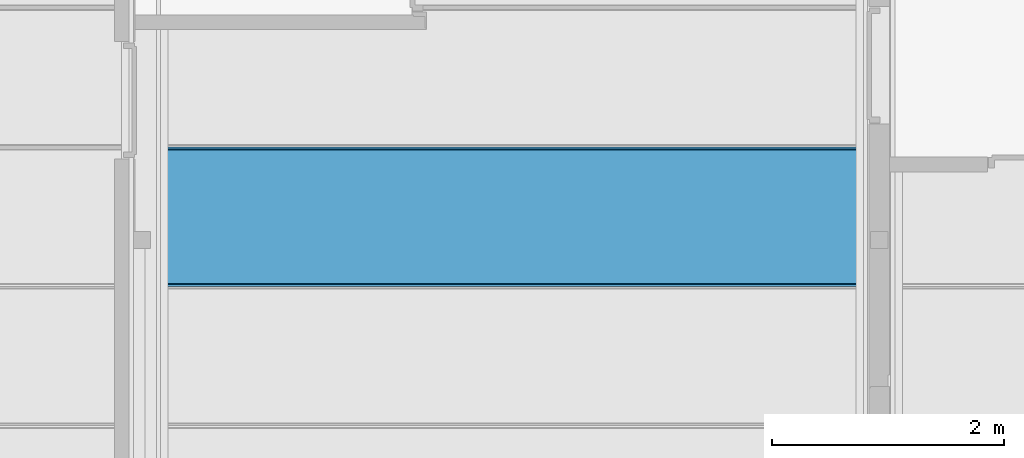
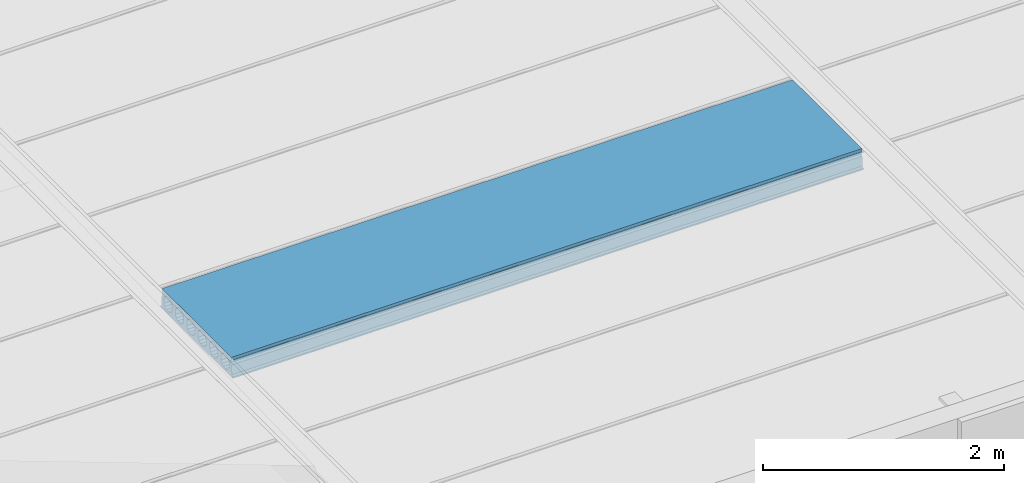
# One storey, part 10 of 45: 1 beam.
"""IFC2X3 building model written with IfcOpenShell, lengths in millimetres."""

from ifc_helpers import new_model, entity, si_unit, converted_unit, frame, origin, place, context, subcontext, project, spatial, faceted_brep, material, element, save


model = new_model("IFC2X3")

# Units and contexts
model_context = context("Model", 3, precision=1e-05, world=origin())
plan_context = context("Plan", 3, precision=1e-05, world=origin())
body_context = subcontext(model_context, "Body", "Model", "MODEL_VIEW")
ifc_project = project(units=[si_unit("LENGTHUNIT", "METRE", prefix="MILLI"), converted_unit("PLANEANGLEUNIT", "DEGREE", entity("IfcPlaneAngleMeasure", 0.0174532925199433), si_unit("PLANEANGLEUNIT", "RADIAN"), dimensions=[0, 0, 0, 0, 0, 0, 0]), si_unit("AREAUNIT", "SQUARE_METRE"), si_unit("VOLUMEUNIT", "CUBIC_METRE")], contexts=[model_context, plan_context])

# Building, storey
building_placement = place(None, origin())
building = spatial("IfcBuilding", under=ifc_project, at=building_placement, Name="HEKF Administrasjonbygg", CompositionType="ELEMENT")
storey_placement = place(building_placement, frame((0.0, 0.0, 6500.0), z_axis=(0.0, 0.0, 1.0), x_axis=(1.0, 0.0, 0.0)))
storey = spatial("IfcBuildingStorey", under=building, at=storey_placement, Name="Plan 1", CompositionType="ELEMENT", Elevation=6500.0)

# Beam
ifc_material = material()
beam_placement = place(storey_placement, frame((0.0, 0.0, -6500.0), z_axis=(0.0, 0.0, 1.0), x_axis=(1.0, 0.0, 0.0)))
element("IfcBeam", 1, at=beam_placement, inside=storey, material=ifc_material, context=body_context, shape_type="Brep", body=[
    faceted_brep([(10135.0, -7199.999999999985, 9684.999999), (10135.0, -7199.999999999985, 9670.0), (16189.99999999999, -7200.0, 9670.000000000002), (16189.99999999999, -7200.0, 9684.999999), (10135.0, -8399.999999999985, 9684.999999), (10135.0, -8399.999999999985, 9670.0), (10135.0, -7199.999999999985, 9670.0), (10135.0, -7199.999999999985, 9684.999999), (10135.0, -7214.99987952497, 9699.999998), (10135.0, -7220.000002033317, 9794.999985), (10135.0, -7235.000003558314, 9809.999985), (10135.0, -7235.000003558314, 9829.999985), (10135.0, -7222.727297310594, 9842.272583), (10135.0, -7224.047732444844, 9870.0), (10135.0, -8375.95237255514, 9870.0), (10135.0, -8377.272729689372, 9842.272735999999), (10135.0, -8365.00000044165, 9829.999985), (10135.0, -8365.00000044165, 9809.999985), (10135.0, -8380.000001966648, 9794.999985), (10135.0, -8384.999999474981, 9699.999998), (10135.0, -8274.999987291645, 9694.999989), (10135.0, -8303.701261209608, 9700.709023), (10135.0, -8328.033020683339, 9716.966995), (10135.0, -8344.290964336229, 9741.298752), (10135.0, -8344.290960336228, 9798.701262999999), (10135.0, -8328.03299768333, 9823.03299), (10135.0, -8303.70124620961, 9839.290955), (10135.0, -8274.999987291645, 9845.0), (10135.0, -8246.298721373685, 9839.290955), (10135.0, -8221.96697689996, 9823.033005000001), (10135.0, -8205.709010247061, 9798.701233), (10135.0, -8205.708980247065, 9741.298767), (10135.0, -8221.966961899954, 9716.966995), (10135.0, -8246.29870537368, 9700.709023), (10135.0, -8084.999967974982, 9694.999989), (10135.0, -8113.701241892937, 9700.709023), (10135.0, -8138.033001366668, 9716.966995), (10135.0, -8154.290945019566, 9741.298752), (10135.0, -8154.290941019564, 9798.701262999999), (10135.0, -8138.032978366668, 9823.03299), (10135.0, -8113.701226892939, 9839.290955), (10135.0, -8084.999967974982, 9845.0), (10135.0, -8056.298702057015, 9839.290955), (10135.0, -8031.966957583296, 9823.033005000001), (10135.0, -8015.708990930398, 9798.701233), (10135.0, -8015.708960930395, 9741.298767), (10135.0, -8031.966942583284, 9716.966995), (10135.0, -8056.298686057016, 9700.709023), (10135.0, -7894.999948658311, 9694.999989), (10135.0, -7923.701222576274, 9700.709023), (10135.0, -7948.032982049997, 9716.966995), (10135.0, -7964.290925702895, 9741.298752), (10135.0, -7964.290921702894, 9798.701262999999), (10135.0, -7948.032959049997, 9823.03299), (10135.0, -7923.701207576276, 9839.290955), (10135.0, -7894.999948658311, 9845.0), (10135.0, -7866.298682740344, 9839.290955), (10135.0, -7841.966938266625, 9823.033005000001), (10135.0, -7825.708971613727, 9798.701233), (10135.0, -7825.708941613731, 9741.298767), (10135.0, -7841.96692326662, 9716.966995), (10135.0, -7866.298666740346, 9700.709023), (10135.0, -7704.99992934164, 9694.999989), (10135.0, -7733.701203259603, 9700.709023), (10135.0, -7758.032962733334, 9716.966995), (10135.0, -7774.290906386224, 9741.298752), (10135.0, -7774.290902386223, 9798.701262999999), (10135.0, -7758.032939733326, 9823.03299), (10135.0, -7733.701188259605, 9839.290955), (10135.0, -7704.99992934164, 9845.0), (10135.0, -7676.29866342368, 9839.290955), (10135.0, -7651.966918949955, 9823.033005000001), (10135.0, -7635.708952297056, 9798.701233), (10135.0, -7635.708922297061, 9741.298767), (10135.0, -7651.96690394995, 9716.966995), (10135.0, -7676.298647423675, 9700.709023), (10135.0, -7514.999910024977, 9694.999989), (10135.0, -7543.701183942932, 9700.709023), (10135.0, -7568.032943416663, 9716.966995), (10135.0, -7584.290887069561, 9741.298752), (10135.0, -7584.29088306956, 9798.701262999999), (10135.0, -7568.032920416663, 9823.03299), (10135.0, -7543.701168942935, 9839.290955), (10135.0, -7514.999910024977, 9845.0), (10135.0, -7486.29864410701, 9839.290955), (10135.0, -7461.966899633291, 9823.033005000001), (10135.0, -7445.708932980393, 9798.701233), (10135.0, -7445.70890298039, 9741.298767), (10135.0, -7461.966884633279, 9716.966995), (10135.0, -7486.298628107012, 9700.709023), (10135.0, -7324.999890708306, 9694.999989), (10135.0, -7353.701164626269, 9700.709023), (10135.0, -7378.032924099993, 9716.966995), (10135.0, -7394.29086775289, 9741.298752), (10135.0, -7394.290863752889, 9798.701262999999), (10135.0, -7378.032901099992, 9823.03299), (10135.0, -7353.701149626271, 9839.290955), (10135.0, -7324.999890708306, 9845.0), (10135.0, -7296.298624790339, 9839.290955), (10135.0, -7271.966880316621, 9823.033005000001), (10135.0, -7255.708913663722, 9798.701233), (10135.0, -7255.708883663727, 9741.298767), (10135.0, -7271.966865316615, 9716.966995), (10135.0, -7296.298608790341, 9700.709023), (16190.0, -8400.0, 9684.999999), (16190.0, -8400.0, 9670.0), (10135.0, -8399.999999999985, 9670.0), (10135.0, -8399.999999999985, 9684.999999), (16189.99999999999, -7200.0, 9684.999999), (16189.99999999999, -7200.0, 9670.000000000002), (16190.0, -8400.0, 9670.0), (16190.0, -8400.0, 9684.999999), (16190.0, -8384.999999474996, 9699.999998), (16190.0, -8380.000001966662, 9794.999985), (16190.0, -8365.000000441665, 9809.999985), (16190.0, -8365.000000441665, 9829.999985), (16190.0, -8377.272729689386, 9842.272735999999), (16190.0, -8375.952372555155, 9870.0), (16190.0, -7224.047732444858, 9870.0), (16190.0, -7222.727297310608, 9842.272583), (16190.0, -7235.000003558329, 9829.999985), (16190.0, -7235.000003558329, 9809.999985), (16190.0, -7220.000002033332, 9794.999985), (16190.0, -7214.999879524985, 9699.999998), (16190.0, -7324.999890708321, 9694.999989), (16190.0, -7296.298608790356, 9700.709023), (16190.0, -7271.96686531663, 9716.966995), (16190.0, -7255.708883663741, 9741.298767), (16190.0, -7255.708913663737, 9798.701233), (16190.0, -7271.966880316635, 9823.033005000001), (16190.0, -7296.298624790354, 9839.290955), (16190.0, -7324.999890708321, 9845.0), (16190.0, -7353.701149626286, 9839.290955), (16190.0, -7378.032901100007, 9823.03299), (16190.0, -7394.290863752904, 9798.701262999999), (16190.0, -7394.290867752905, 9741.298752), (16190.0, -7378.032924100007, 9716.966995), (16190.0, -7353.701164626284, 9700.709023), (16190.0, -7514.999910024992, 9694.999989), (16190.0, -7486.298628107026, 9700.709023), (16190.0, -7461.966884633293, 9716.966995), (16190.0, -7445.708902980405, 9741.298767), (16190.0, -7445.708932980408, 9798.701233), (16190.0, -7461.966899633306, 9823.033005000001), (16190.0, -7486.298644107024, 9839.290955), (16190.0, -7514.999910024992, 9845.0), (16190.0, -7543.701168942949, 9839.290955), (16190.0, -7568.032920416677, 9823.03299), (16190.0, -7584.290883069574, 9798.701262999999), (16190.0, -7584.290887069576, 9741.298752), (16190.0, -7568.032943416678, 9716.966995), (16190.0, -7543.701183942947, 9700.709023), (16190.0, -7704.999929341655, 9694.999989), (16190.0, -7676.29864742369, 9700.709023), (16190.0, -7651.966903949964, 9716.966995), (16190.0, -7635.708922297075, 9741.298767), (16190.0, -7635.708952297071, 9798.701233), (16190.0, -7651.966918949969, 9823.033005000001), (16190.0, -7676.298663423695, 9839.290955), (16190.0, -7704.999929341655, 9845.0), (16190.0, -7733.70118825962, 9839.290955), (16190.0, -7758.032939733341, 9823.03299), (16190.0, -7774.290902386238, 9798.701262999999), (16190.0, -7774.290906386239, 9741.298752), (16190.0, -7758.032962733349, 9716.966995), (16190.0, -7733.701203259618, 9700.709023), (16190.0, -7894.999948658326, 9694.999989), (16190.0, -7866.29866674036, 9700.709023), (16190.0, -7841.966923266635, 9716.966995), (16190.0, -7825.708941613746, 9741.298767), (16190.0, -7825.708971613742, 9798.701233), (16190.0, -7841.96693826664, 9823.033005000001), (16190.0, -7866.298682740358, 9839.290955), (16190.0, -7894.999948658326, 9845.0), (16190.0, -7923.701207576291, 9839.290955), (16190.0, -7948.032959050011, 9823.03299), (16190.0, -7964.290921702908, 9798.701262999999), (16190.0, -7964.29092570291, 9741.298752), (16190.0, -7948.032982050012, 9716.966995), (16190.0, -7923.701222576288, 9700.709023), (16190.0, -8084.999967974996, 9694.999989), (16190.0, -8056.298686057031, 9700.709023), (16190.0, -8031.966942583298, 9716.966995), (16190.0, -8015.708960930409, 9741.298767), (16190.0, -8015.708990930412, 9798.701233), (16190.0, -8031.96695758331, 9823.033005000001), (16190.0, -8056.298702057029, 9839.290955), (16190.0, -8084.999967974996, 9845.0), (16190.0, -8113.701226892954, 9839.290955), (16190.0, -8138.032978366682, 9823.03299), (16190.0, -8154.290941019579, 9798.701262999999), (16190.0, -8154.29094501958, 9741.298752), (16190.0, -8138.033001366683, 9716.966995), (16190.0, -8113.701241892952, 9700.709023), (16190.0, -8274.99998729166, 9694.999989), (16190.0, -8246.298705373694, 9700.709023), (16190.0, -8221.966961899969, 9716.966995), (16190.0, -8205.70898024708, 9741.298767), (16190.0, -8205.709010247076, 9798.701233), (16190.0, -8221.966976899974, 9823.033005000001), (16190.0, -8246.2987213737, 9839.290955), (16190.0, -8274.99998729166, 9845.0), (16190.0, -8303.701246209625, 9839.290955), (16190.0, -8328.032997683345, 9823.03299), (16190.0, -8344.290960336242, 9798.701262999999), (16190.0, -8344.290964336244, 9741.298752), (16190.0, -8328.033020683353, 9716.966995), (16190.0, -8303.701261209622, 9700.709023), (10135.0, -8399.999999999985, 9684.999999), (10135.0, -8384.999999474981, 9699.999998), (16190.0, -8384.999999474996, 9699.999998), (16190.0, -8400.0, 9684.999999), (10135.0, -8384.999999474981, 9699.999998), (10135.0, -8380.000001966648, 9794.999985), (16190.0, -8380.000001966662, 9794.999985), (16190.0, -8384.999999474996, 9699.999998), (10135.0, -8380.000001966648, 9794.999985), (10135.0, -8365.00000044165, 9809.999985), (16190.0, -8365.000000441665, 9809.999985), (16190.0, -8380.000001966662, 9794.999985), (10135.0, -8365.00000044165, 9809.999985), (10135.0, -8365.00000044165, 9829.999985), (16190.0, -8365.000000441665, 9829.999985), (16190.0, -8365.000000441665, 9809.999985), (10135.0, -8365.00000044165, 9829.999985), (10135.0, -8377.272729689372, 9842.272735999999), (16190.0, -8377.272729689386, 9842.272735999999), (16190.0, -8365.000000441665, 9829.999985), (10135.0, -8377.272729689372, 9842.272735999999), (10135.0, -8375.95237255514, 9870.0), (16190.0, -8375.952372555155, 9870.0), (16190.0, -8377.272729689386, 9842.272735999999), (10135.0, -8375.95237255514, 9870.0), (10135.0, -7224.047732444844, 9870.0), (16190.0, -7224.047732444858, 9870.0), (16190.0, -8375.952372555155, 9870.0), (10135.0, -7224.047732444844, 9870.0), (10135.0, -7222.727297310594, 9842.272583), (16190.0, -7222.727297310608, 9842.272583), (16190.0, -7224.047732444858, 9870.0), (10135.0, -7222.727297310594, 9842.272583), (10135.0, -7235.000003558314, 9829.999985), (16190.0, -7235.000003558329, 9829.999985), (16190.0, -7222.727297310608, 9842.272583), (10135.0, -7235.000003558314, 9829.999985), (10135.0, -7235.000003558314, 9809.999985), (16190.0, -7235.000003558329, 9809.999985), (16190.0, -7235.000003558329, 9829.999985), (10135.0, -7235.000003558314, 9809.999985), (10135.0, -7220.000002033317, 9794.999985), (16190.0, -7220.000002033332, 9794.999985), (16190.0, -7235.000003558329, 9809.999985), (10135.0, -7220.000002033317, 9794.999985), (10135.0, -7214.99987952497, 9699.999998), (16190.0, -7214.999879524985, 9699.999998), (16190.0, -7220.000002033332, 9794.999985), (10135.0, -7214.99987952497, 9699.999998), (10135.0, -7199.999999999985, 9684.999999), (16189.99999999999, -7200.0, 9684.999999), (16190.0, -7214.999879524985, 9699.999998), (10135.0, -7199.999999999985, 9670.0), (10135.0, -8399.999999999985, 9670.0), (16190.0, -8400.0, 9670.0), (16189.99999999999, -7200.0, 9670.000000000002), (10135.0, -7324.999890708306, 9694.999989), (10135.0, -7296.298608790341, 9700.709023), (16190.0, -7296.298608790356, 9700.709023), (16190.0, -7324.999890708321, 9694.999989), (10135.0, -7296.298608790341, 9700.709023), (10135.0, -7271.966865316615, 9716.966995), (16190.0, -7271.96686531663, 9716.966995), (16190.0, -7296.298608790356, 9700.709023), (10135.0, -7271.966865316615, 9716.966995), (10135.0, -7255.708883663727, 9741.298767), (16190.0, -7255.708883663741, 9741.298767), (16190.0, -7271.96686531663, 9716.966995), (10135.0, -7255.708883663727, 9741.298767), (10135.0, -7255.708913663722, 9798.701233), (16190.0, -7255.708913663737, 9798.701233), (16190.0, -7255.708883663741, 9741.298767), (10135.0, -7255.708913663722, 9798.701233), (10135.0, -7271.966880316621, 9823.033005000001), (16190.0, -7271.966880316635, 9823.033005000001), (16190.0, -7255.708913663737, 9798.701233), (10135.0, -7271.966880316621, 9823.033005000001), (10135.0, -7296.298624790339, 9839.290955), (16190.0, -7296.298624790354, 9839.290955), (16190.0, -7271.966880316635, 9823.033005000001), (10135.0, -7296.298624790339, 9839.290955), (10135.0, -7324.999890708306, 9845.0), (16190.0, -7324.999890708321, 9845.0), (16190.0, -7296.298624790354, 9839.290955), (10135.0, -7324.999890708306, 9845.0), (10135.0, -7353.701149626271, 9839.290955), (16190.0, -7353.701149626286, 9839.290955), (16190.0, -7324.999890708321, 9845.0), (10135.0, -7353.701149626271, 9839.290955), (10135.0, -7378.032901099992, 9823.03299), (16190.0, -7378.032901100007, 9823.03299), (16190.0, -7353.701149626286, 9839.290955), (10135.0, -7378.032901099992, 9823.03299), (10135.0, -7394.290863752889, 9798.701262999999), (16190.0, -7394.290863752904, 9798.701262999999), (16190.0, -7378.032901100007, 9823.03299), (10135.0, -7394.290863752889, 9798.701262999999), (10135.0, -7394.29086775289, 9741.298752), (16190.0, -7394.290867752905, 9741.298752), (16190.0, -7394.290863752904, 9798.701262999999), (10135.0, -7394.29086775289, 9741.298752), (10135.0, -7378.032924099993, 9716.966995), (16190.0, -7378.032924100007, 9716.966995), (16190.0, -7394.290867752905, 9741.298752), (10135.0, -7378.032924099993, 9716.966995), (10135.0, -7353.701164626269, 9700.709023), (16190.0, -7353.701164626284, 9700.709023), (16190.0, -7378.032924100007, 9716.966995), (10135.0, -7353.701164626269, 9700.709023), (10135.0, -7324.999890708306, 9694.999989), (16190.0, -7324.999890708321, 9694.999989), (16190.0, -7353.701164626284, 9700.709023), (10135.0, -7514.999910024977, 9694.999989), (10135.0, -7486.298628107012, 9700.709023), (16190.0, -7486.298628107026, 9700.709023), (16190.0, -7514.999910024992, 9694.999989), (10135.0, -7486.298628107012, 9700.709023), (10135.0, -7461.966884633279, 9716.966995), (16190.0, -7461.966884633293, 9716.966995), (16190.0, -7486.298628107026, 9700.709023), (10135.0, -7461.966884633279, 9716.966995), (10135.0, -7445.70890298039, 9741.298767), (16190.0, -7445.708902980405, 9741.298767), (16190.0, -7461.966884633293, 9716.966995), (10135.0, -7445.70890298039, 9741.298767), (10135.0, -7445.708932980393, 9798.701233), (16190.0, -7445.708932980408, 9798.701233), (16190.0, -7445.708902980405, 9741.298767), (10135.0, -7445.708932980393, 9798.701233), (10135.0, -7461.966899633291, 9823.033005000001), (16190.0, -7461.966899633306, 9823.033005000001), (16190.0, -7445.708932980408, 9798.701233), (10135.0, -7461.966899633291, 9823.033005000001), (10135.0, -7486.29864410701, 9839.290955), (16190.0, -7486.298644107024, 9839.290955), (16190.0, -7461.966899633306, 9823.033005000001), (10135.0, -7486.29864410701, 9839.290955), (10135.0, -7514.999910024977, 9845.0), (16190.0, -7514.999910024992, 9845.0), (16190.0, -7486.298644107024, 9839.290955), (10135.0, -7514.999910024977, 9845.0), (10135.0, -7543.701168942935, 9839.290955), (16190.0, -7543.701168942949, 9839.290955), (16190.0, -7514.999910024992, 9845.0), (10135.0, -7543.701168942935, 9839.290955), (10135.0, -7568.032920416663, 9823.03299), (16190.0, -7568.032920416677, 9823.03299), (16190.0, -7543.701168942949, 9839.290955), (10135.0, -7568.032920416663, 9823.03299), (10135.0, -7584.29088306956, 9798.701262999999), (16190.0, -7584.290883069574, 9798.701262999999), (16190.0, -7568.032920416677, 9823.03299), (10135.0, -7584.29088306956, 9798.701262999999), (10135.0, -7584.290887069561, 9741.298752), (16190.0, -7584.290887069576, 9741.298752), (16190.0, -7584.290883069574, 9798.701262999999), (10135.0, -7584.290887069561, 9741.298752), (10135.0, -7568.032943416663, 9716.966995), (16190.0, -7568.032943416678, 9716.966995), (16190.0, -7584.290887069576, 9741.298752), (10135.0, -7568.032943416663, 9716.966995), (10135.0, -7543.701183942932, 9700.709023), (16190.0, -7543.701183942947, 9700.709023), (16190.0, -7568.032943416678, 9716.966995), (10135.0, -7543.701183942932, 9700.709023), (10135.0, -7514.999910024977, 9694.999989), (16190.0, -7514.999910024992, 9694.999989), (16190.0, -7543.701183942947, 9700.709023), (10135.0, -7704.99992934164, 9694.999989), (10135.0, -7676.298647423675, 9700.709023), (16190.0, -7676.29864742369, 9700.709023), (16190.0, -7704.999929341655, 9694.999989), (10135.0, -7676.298647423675, 9700.709023), (10135.0, -7651.96690394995, 9716.966995), (16190.0, -7651.966903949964, 9716.966995), (16190.0, -7676.29864742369, 9700.709023), (10135.0, -7651.96690394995, 9716.966995), (10135.0, -7635.708922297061, 9741.298767), (16190.0, -7635.708922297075, 9741.298767), (16190.0, -7651.966903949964, 9716.966995), (10135.0, -7635.708922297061, 9741.298767), (10135.0, -7635.708952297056, 9798.701233), (16190.0, -7635.708952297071, 9798.701233), (16190.0, -7635.708922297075, 9741.298767), (10135.0, -7635.708952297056, 9798.701233), (10135.0, -7651.966918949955, 9823.033005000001), (16190.0, -7651.966918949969, 9823.033005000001), (16190.0, -7635.708952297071, 9798.701233), (10135.0, -7651.966918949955, 9823.033005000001), (10135.0, -7676.29866342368, 9839.290955), (16190.0, -7676.298663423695, 9839.290955), (16190.0, -7651.966918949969, 9823.033005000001), (10135.0, -7676.29866342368, 9839.290955), (10135.0, -7704.99992934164, 9845.0), (16190.0, -7704.999929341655, 9845.0), (16190.0, -7676.298663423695, 9839.290955), (10135.0, -7704.99992934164, 9845.0), (10135.0, -7733.701188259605, 9839.290955), (16190.0, -7733.70118825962, 9839.290955), (16190.0, -7704.999929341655, 9845.0), (10135.0, -7733.701188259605, 9839.290955), (10135.0, -7758.032939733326, 9823.03299), (16190.0, -7758.032939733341, 9823.03299), (16190.0, -7733.70118825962, 9839.290955), (10135.0, -7758.032939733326, 9823.03299), (10135.0, -7774.290902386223, 9798.701262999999), (16190.0, -7774.290902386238, 9798.701262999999), (16190.0, -7758.032939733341, 9823.03299), (10135.0, -7774.290902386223, 9798.701262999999), (10135.0, -7774.290906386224, 9741.298752), (16190.0, -7774.290906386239, 9741.298752), (16190.0, -7774.290902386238, 9798.701262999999), (10135.0, -7774.290906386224, 9741.298752), (10135.0, -7758.032962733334, 9716.966995), (16190.0, -7758.032962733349, 9716.966995), (16190.0, -7774.290906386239, 9741.298752), (10135.0, -7758.032962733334, 9716.966995), (10135.0, -7733.701203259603, 9700.709023), (16190.0, -7733.701203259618, 9700.709023), (16190.0, -7758.032962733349, 9716.966995), (10135.0, -7733.701203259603, 9700.709023), (10135.0, -7704.99992934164, 9694.999989), (16190.0, -7704.999929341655, 9694.999989), (16190.0, -7733.701203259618, 9700.709023), (10135.0, -7894.999948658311, 9694.999989), (10135.0, -7866.298666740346, 9700.709023), (16190.0, -7866.29866674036, 9700.709023), (16190.0, -7894.999948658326, 9694.999989), (10135.0, -7866.298666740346, 9700.709023), (10135.0, -7841.96692326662, 9716.966995), (16190.0, -7841.966923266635, 9716.966995), (16190.0, -7866.29866674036, 9700.709023), (10135.0, -7841.96692326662, 9716.966995), (10135.0, -7825.708941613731, 9741.298767), (16190.0, -7825.708941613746, 9741.298767), (16190.0, -7841.966923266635, 9716.966995), (10135.0, -7825.708941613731, 9741.298767), (10135.0, -7825.708971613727, 9798.701233), (16190.0, -7825.708971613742, 9798.701233), (16190.0, -7825.708941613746, 9741.298767), (10135.0, -7825.708971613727, 9798.701233), (10135.0, -7841.966938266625, 9823.033005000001), (16190.0, -7841.96693826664, 9823.033005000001), (16190.0, -7825.708971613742, 9798.701233), (10135.0, -7841.966938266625, 9823.033005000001), (10135.0, -7866.298682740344, 9839.290955), (16190.0, -7866.298682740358, 9839.290955), (16190.0, -7841.96693826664, 9823.033005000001), (10135.0, -7866.298682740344, 9839.290955), (10135.0, -7894.999948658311, 9845.0), (16190.0, -7894.999948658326, 9845.0), (16190.0, -7866.298682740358, 9839.290955), (10135.0, -7894.999948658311, 9845.0), (10135.0, -7923.701207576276, 9839.290955), (16190.0, -7923.701207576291, 9839.290955), (16190.0, -7894.999948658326, 9845.0), (10135.0, -7923.701207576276, 9839.290955), (10135.0, -7948.032959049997, 9823.03299), (16190.0, -7948.032959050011, 9823.03299), (16190.0, -7923.701207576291, 9839.290955), (10135.0, -7948.032959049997, 9823.03299), (10135.0, -7964.290921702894, 9798.701262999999), (16190.0, -7964.290921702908, 9798.701262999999), (16190.0, -7948.032959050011, 9823.03299), (10135.0, -7964.290921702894, 9798.701262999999), (10135.0, -7964.290925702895, 9741.298752), (16190.0, -7964.29092570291, 9741.298752), (16190.0, -7964.290921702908, 9798.701262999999), (10135.0, -7964.290925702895, 9741.298752), (10135.0, -7948.032982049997, 9716.966995), (16190.0, -7948.032982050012, 9716.966995), (16190.0, -7964.29092570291, 9741.298752), (10135.0, -7948.032982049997, 9716.966995), (10135.0, -7923.701222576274, 9700.709023), (16190.0, -7923.701222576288, 9700.709023), (16190.0, -7948.032982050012, 9716.966995), (10135.0, -7923.701222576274, 9700.709023), (10135.0, -7894.999948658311, 9694.999989), (16190.0, -7894.999948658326, 9694.999989), (16190.0, -7923.701222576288, 9700.709023), (10135.0, -8084.999967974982, 9694.999989), (10135.0, -8056.298686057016, 9700.709023), (16190.0, -8056.298686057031, 9700.709023), (16190.0, -8084.999967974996, 9694.999989), (10135.0, -8056.298686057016, 9700.709023), (10135.0, -8031.966942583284, 9716.966995), (16190.0, -8031.966942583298, 9716.966995), (16190.0, -8056.298686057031, 9700.709023), (10135.0, -8031.966942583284, 9716.966995), (10135.0, -8015.708960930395, 9741.298767), (16190.0, -8015.708960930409, 9741.298767), (16190.0, -8031.966942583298, 9716.966995), (10135.0, -8015.708960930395, 9741.298767), (10135.0, -8015.708990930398, 9798.701233), (16190.0, -8015.708990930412, 9798.701233), (16190.0, -8015.708960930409, 9741.298767), (10135.0, -8015.708990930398, 9798.701233), (10135.0, -8031.966957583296, 9823.033005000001), (16190.0, -8031.96695758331, 9823.033005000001), (16190.0, -8015.708990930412, 9798.701233), (10135.0, -8031.966957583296, 9823.033005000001), (10135.0, -8056.298702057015, 9839.290955), (16190.0, -8056.298702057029, 9839.290955), (16190.0, -8031.96695758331, 9823.033005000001), (10135.0, -8056.298702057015, 9839.290955), (10135.0, -8084.999967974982, 9845.0), (16190.0, -8084.999967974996, 9845.0), (16190.0, -8056.298702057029, 9839.290955), (10135.0, -8084.999967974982, 9845.0), (10135.0, -8113.701226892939, 9839.290955), (16190.0, -8113.701226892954, 9839.290955), (16190.0, -8084.999967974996, 9845.0), (10135.0, -8113.701226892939, 9839.290955), (10135.0, -8138.032978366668, 9823.03299), (16190.0, -8138.032978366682, 9823.03299), (16190.0, -8113.701226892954, 9839.290955), (10135.0, -8138.032978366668, 9823.03299), (10135.0, -8154.290941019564, 9798.701262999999), (16190.0, -8154.290941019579, 9798.701262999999), (16190.0, -8138.032978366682, 9823.03299), (10135.0, -8154.290941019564, 9798.701262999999), (10135.0, -8154.290945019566, 9741.298752), (16190.0, -8154.29094501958, 9741.298752), (16190.0, -8154.290941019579, 9798.701262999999), (10135.0, -8154.290945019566, 9741.298752), (10135.0, -8138.033001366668, 9716.966995), (16190.0, -8138.033001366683, 9716.966995), (16190.0, -8154.29094501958, 9741.298752), (10135.0, -8138.033001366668, 9716.966995), (10135.0, -8113.701241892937, 9700.709023), (16190.0, -8113.701241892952, 9700.709023), (16190.0, -8138.033001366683, 9716.966995), (10135.0, -8113.701241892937, 9700.709023), (10135.0, -8084.999967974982, 9694.999989), (16190.0, -8084.999967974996, 9694.999989), (16190.0, -8113.701241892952, 9700.709023), (10135.0, -8274.999987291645, 9694.999989), (10135.0, -8246.29870537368, 9700.709023), (16190.0, -8246.298705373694, 9700.709023), (16190.0, -8274.99998729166, 9694.999989), (10135.0, -8246.29870537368, 9700.709023), (10135.0, -8221.966961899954, 9716.966995), (16190.0, -8221.966961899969, 9716.966995), (16190.0, -8246.298705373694, 9700.709023), (10135.0, -8221.966961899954, 9716.966995), (10135.0, -8205.708980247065, 9741.298767), (16190.0, -8205.70898024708, 9741.298767), (16190.0, -8221.966961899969, 9716.966995), (10135.0, -8205.708980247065, 9741.298767), (10135.0, -8205.709010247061, 9798.701233), (16190.0, -8205.709010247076, 9798.701233), (16190.0, -8205.70898024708, 9741.298767), (10135.0, -8205.709010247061, 9798.701233), (10135.0, -8221.96697689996, 9823.033005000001), (16190.0, -8221.966976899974, 9823.033005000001), (16190.0, -8205.709010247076, 9798.701233), (10135.0, -8221.96697689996, 9823.033005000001), (10135.0, -8246.298721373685, 9839.290955), (16190.0, -8246.2987213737, 9839.290955), (16190.0, -8221.966976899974, 9823.033005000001), (10135.0, -8246.298721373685, 9839.290955), (10135.0, -8274.999987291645, 9845.0), (16190.0, -8274.99998729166, 9845.0), (16190.0, -8246.2987213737, 9839.290955), (10135.0, -8274.999987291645, 9845.0), (10135.0, -8303.70124620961, 9839.290955), (16190.0, -8303.701246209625, 9839.290955), (16190.0, -8274.99998729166, 9845.0), (10135.0, -8303.70124620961, 9839.290955), (10135.0, -8328.03299768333, 9823.03299), (16190.0, -8328.032997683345, 9823.03299), (16190.0, -8303.701246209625, 9839.290955), (10135.0, -8328.03299768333, 9823.03299), (10135.0, -8344.290960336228, 9798.701262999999), (16190.0, -8344.290960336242, 9798.701262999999), (16190.0, -8328.032997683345, 9823.03299), (10135.0, -8344.290960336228, 9798.701262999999), (10135.0, -8344.290964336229, 9741.298752), (16190.0, -8344.290964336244, 9741.298752), (16190.0, -8344.290960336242, 9798.701262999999), (10135.0, -8344.290964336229, 9741.298752), (10135.0, -8328.033020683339, 9716.966995), (16190.0, -8328.033020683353, 9716.966995), (16190.0, -8344.290964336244, 9741.298752), (10135.0, -8328.033020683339, 9716.966995), (10135.0, -8303.701261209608, 9700.709023), (16190.0, -8303.701261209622, 9700.709023), (16190.0, -8328.033020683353, 9716.966995), (10135.0, -8303.701261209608, 9700.709023), (10135.0, -8274.999987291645, 9694.999989), (16190.0, -8274.99998729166, 9694.999989), (16190.0, -8303.701261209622, 9700.709023)], [[[0, 1, 2, 3]], [[4, 5, 6, 7, 8, 9, 10, 11, 12, 13, 14, 15, 16, 17, 18, 19], [20, 21, 22, 23, 24, 25, 26, 27, 28, 29, 30, 31, 32, 33], [34, 35, 36, 37, 38, 39, 40, 41, 42, 43, 44, 45, 46, 47], [48, 49, 50, 51, 52, 53, 54, 55, 56, 57, 58, 59, 60, 61], [62, 63, 64, 65, 66, 67, 68, 69, 70, 71, 72, 73, 74, 75], [76, 77, 78, 79, 80, 81, 82, 83, 84, 85, 86, 87, 88, 89], [90, 91, 92, 93, 94, 95, 96, 97, 98, 99, 100, 101, 102, 103]], [[104, 105, 106, 107]], [[108, 109, 110, 111, 112, 113, 114, 115, 116, 117, 118, 119, 120, 121, 122, 123], [124, 125, 126, 127, 128, 129, 130, 131, 132, 133, 134, 135, 136, 137], [138, 139, 140, 141, 142, 143, 144, 145, 146, 147, 148, 149, 150, 151], [152, 153, 154, 155, 156, 157, 158, 159, 160, 161, 162, 163, 164, 165], [166, 167, 168, 169, 170, 171, 172, 173, 174, 175, 176, 177, 178, 179], [180, 181, 182, 183, 184, 185, 186, 187, 188, 189, 190, 191, 192, 193], [194, 195, 196, 197, 198, 199, 200, 201, 202, 203, 204, 205, 206, 207]], [[208, 209, 210, 211]], [[212, 213, 214, 215]], [[216, 217, 218, 219]], [[220, 221, 222, 223]], [[224, 225, 226, 227]], [[228, 229, 230, 231]], [[232, 233, 234, 235]], [[236, 237, 238, 239]], [[240, 241, 242, 243]], [[244, 245, 246, 247]], [[248, 249, 250, 251]], [[252, 253, 254, 255]], [[256, 257, 258, 259]], [[260, 261, 262, 263]], [[264, 265, 266, 267]], [[268, 269, 270, 271]], [[272, 273, 274, 275]], [[276, 277, 278, 279]], [[280, 281, 282, 283]], [[284, 285, 286, 287]], [[288, 289, 290, 291]], [[292, 293, 294, 295]], [[296, 297, 298, 299]], [[300, 301, 302, 303]], [[304, 305, 306, 307]], [[308, 309, 310, 311]], [[312, 313, 314, 315]], [[316, 317, 318, 319]], [[320, 321, 322, 323]], [[324, 325, 326, 327]], [[328, 329, 330, 331]], [[332, 333, 334, 335]], [[336, 337, 338, 339]], [[340, 341, 342, 343]], [[344, 345, 346, 347]], [[348, 349, 350, 351]], [[352, 353, 354, 355]], [[356, 357, 358, 359]], [[360, 361, 362, 363]], [[364, 365, 366, 367]], [[368, 369, 370, 371]], [[372, 373, 374, 375]], [[376, 377, 378, 379]], [[380, 381, 382, 383]], [[384, 385, 386, 387]], [[388, 389, 390, 391]], [[392, 393, 394, 395]], [[396, 397, 398, 399]], [[400, 401, 402, 403]], [[404, 405, 406, 407]], [[408, 409, 410, 411]], [[412, 413, 414, 415]], [[416, 417, 418, 419]], [[420, 421, 422, 423]], [[424, 425, 426, 427]], [[428, 429, 430, 431]], [[432, 433, 434, 435]], [[436, 437, 438, 439]], [[440, 441, 442, 443]], [[444, 445, 446, 447]], [[448, 449, 450, 451]], [[452, 453, 454, 455]], [[456, 457, 458, 459]], [[460, 461, 462, 463]], [[464, 465, 466, 467]], [[468, 469, 470, 471]], [[472, 473, 474, 475]], [[476, 477, 478, 479]], [[480, 481, 482, 483]], [[484, 485, 486, 487]], [[488, 489, 490, 491]], [[492, 493, 494, 495]], [[496, 497, 498, 499]], [[500, 501, 502, 503]], [[504, 505, 506, 507]], [[508, 509, 510, 511]], [[512, 513, 514, 515]], [[516, 517, 518, 519]], [[520, 521, 522, 523]], [[524, 525, 526, 527]], [[528, 529, 530, 531]], [[532, 533, 534, 535]], [[536, 537, 538, 539]], [[540, 541, 542, 543]], [[544, 545, 546, 547]], [[548, 549, 550, 551]], [[552, 553, 554, 555]], [[556, 557, 558, 559]], [[560, 561, 562, 563]], [[564, 565, 566, 567]], [[568, 569, 570, 571]], [[572, 573, 574, 575]], [[576, 577, 578, 579]], [[580, 581, 582, 583]], [[584, 585, 586, 587]], [[588, 589, 590, 591]], [[592, 593, 594, 595]], [[596, 597, 598, 599]]], orient=[[False], [False, False, False, False, False, False, False], [False], [False, False, False, False, False, False, False], [False], [False], [False], [False], [False], [False], [False], [False], [False], [False], [False], [False], [False], [False], [False], [False], [False], [False], [False], [False], [False], [False], [False], [False], [False], [False], [False], [False], [False], [False], [False], [False], [False], [False], [False], [False], [False], [False], [False], [False], [False], [False], [False], [False], [False], [False], [False], [False], [False], [False], [False], [False], [False], [False], [False], [False], [False], [False], [False], [False], [False], [False], [False], [False], [False], [False], [False], [False], [False], [False], [False], [False], [False], [False], [False], [False], [False], [False], [False], [False], [False], [False], [False], [False], [False], [False], [False], [False], [False], [False], [False], [False], [False], [False], [False], [False], [False], [False]]),
])

save(model, "model.ifc")
